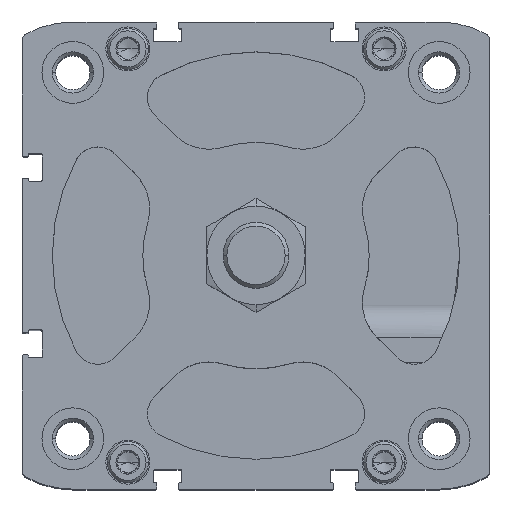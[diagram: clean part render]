
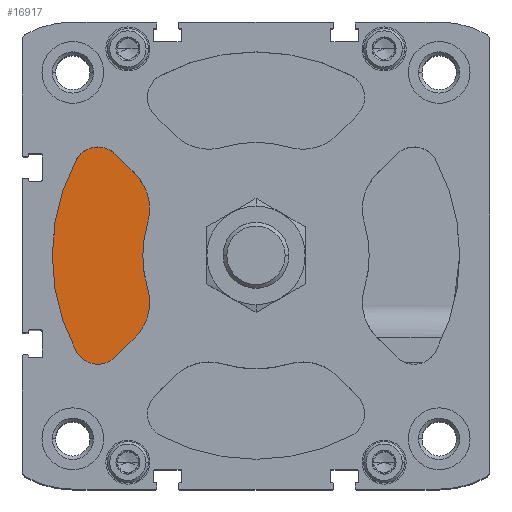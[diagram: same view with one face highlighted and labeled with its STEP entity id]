
A CAD part, top view. The second image highlights one B-rep face of the part: STEP entity #16917.
In plain terms, the highlighted planar face has unit normal (0, 0, 1).
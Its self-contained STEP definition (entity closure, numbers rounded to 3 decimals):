
#291 = VERTEX_POINT ( 'NONE', #6179 ) ;
#366 = EDGE_CURVE ( 'NONE', #9530, #16301, #12878, .T. ) ;
#747 = ORIENTED_EDGE ( 'NONE', *, *, #9583, .F. ) ;
#1716 = DIRECTION ( 'NONE',  ( 0., 1., 0. ) ) ;
#1896 = CARTESIAN_POINT ( 'NONE',  ( -29.356, 19.81, -18.8 ) ) ;
#2048 = CARTESIAN_POINT ( 'NONE',  ( -38.424, 20.393, -18.8 ) ) ;
#2157 = EDGE_LOOP ( 'NONE', ( #6025, #12509, #22018, #21944, #747, #20966, #22286, #20193, #13142 ) ) ;
#2169 = DIRECTION ( 'NONE',  ( 0., 0., 1. ) ) ;
#2543 = VERTEX_POINT ( 'NONE', #22245 ) ;
#2637 = FACE_OUTER_BOUND ( 'NONE', #2157, .T. ) ;
#2733 = AXIS2_PLACEMENT_3D ( 'NONE', #2048, #17920, #11078 ) ;
#2738 = DIRECTION ( 'NONE',  ( 0., 1., 0. ) ) ;
#3538 = DIRECTION ( 'NONE',  ( 0.707, 0.707, 0. ) ) ;
#3808 = CIRCLE ( 'NONE', #18058, 27.5 ) ;
#4569 = EDGE_CURVE ( 'NONE', #16301, #8339, #19295, .T. ) ;
#5253 = CARTESIAN_POINT ( 'NONE',  ( -34.181, -24.635, -18.8 ) ) ;
#5354 = LINE ( 'NONE', #6956, #22594 ) ;
#5484 = DIRECTION ( 'NONE',  ( 0., 0., 1. ) ) ;
#5612 = CARTESIAN_POINT ( 'NONE',  ( -26.345, 7.885, -18.8 ) ) ;
#5614 = DIRECTION ( 'NONE',  ( 0., 0., 1. ) ) ;
#6025 = ORIENTED_EDGE ( 'NONE', *, *, #366, .T. ) ;
#6179 = CARTESIAN_POINT ( 'NONE',  ( -34.181, 24.635, -18.8 ) ) ;
#6421 = DIRECTION ( 'NONE',  ( 0., 1., 0. ) ) ;
#6956 = CARTESIAN_POINT ( 'NONE',  ( -29.356, 19.81, -18.8 ) ) ;
#6971 = LINE ( 'NONE', #5253, #11114 ) ;
#8022 = CARTESIAN_POINT ( 'NONE',  ( 0., 0., -18.8 ) ) ;
#8339 = VERTEX_POINT ( 'NONE', #16145 ) ;
#9036 = AXIS2_PLACEMENT_3D ( 'NONE', #13610, #20589, #6421 ) ;
#9272 = DIRECTION ( 'NONE',  ( 0., 1., 0. ) ) ;
#9530 = VERTEX_POINT ( 'NONE', #19214 ) ;
#9583 = EDGE_CURVE ( 'NONE', #20508, #2543, #3808, .T. ) ;
#9713 = DIRECTION ( 'NONE',  ( 0., 0., 1. ) ) ;
#10066 = EDGE_CURVE ( 'NONE', #21248, #9530, #21356, .T. ) ;
#11062 = AXIS2_PLACEMENT_3D ( 'NONE', #18624, #9713, #2738 ) ;
#11078 = DIRECTION ( 'NONE',  ( 0., 1., 0. ) ) ;
#11101 = CARTESIAN_POINT ( 'NONE',  ( 0., 0., -18.8 ) ) ;
#11114 = VECTOR ( 'NONE', #3538, 1000. ) ;
#11444 = CARTESIAN_POINT ( 'NONE',  ( -29.356, -19.81, -18.8 ) ) ;
#11803 = VERTEX_POINT ( 'NONE', #11444 ) ;
#11946 = DIRECTION ( 'NONE',  ( 0., 0., 1. ) ) ;
#12049 = CARTESIAN_POINT ( 'NONE',  ( -38.424, 20.393, -18.8 ) ) ;
#12225 = AXIS2_PLACEMENT_3D ( 'NONE', #12049, #11946, #18810 ) ;
#12509 = ORIENTED_EDGE ( 'NONE', *, *, #4569, .T. ) ;
#12878 = CIRCLE ( 'NONE', #11062, 49.5 ) ;
#13142 = ORIENTED_EDGE ( 'NONE', *, *, #10066, .T. ) ;
#13223 = EDGE_CURVE ( 'NONE', #11803, #2543, #17054, .T. ) ;
#13610 = CARTESIAN_POINT ( 'NONE',  ( -37.842, -11.325, -18.8 ) ) ;
#14418 = CARTESIAN_POINT ( 'NONE',  ( -37.842, 11.325, -18.8 ) ) ;
#14648 = EDGE_CURVE ( 'NONE', #14791, #291, #5354, .T. ) ;
#14766 = PLANE ( 'NONE',  #18721 ) ;
#14791 = VERTEX_POINT ( 'NONE', #1896 ) ;
#14984 = DIRECTION ( 'NONE',  ( 0., 0., 1. ) ) ;
#15830 = CARTESIAN_POINT ( 'NONE',  ( -43.724, -23.205, -18.8 ) ) ;
#16145 = CARTESIAN_POINT ( 'NONE',  ( -34.181, -24.635, -18.8 ) ) ;
#16234 = CIRCLE ( 'NONE', #12225, 6. ) ;
#16301 = VERTEX_POINT ( 'NONE', #15830 ) ;
#16463 = DIRECTION ( 'NONE',  ( 1., 0., 0. ) ) ;
#16917 = ADVANCED_FACE ( 'NONE', ( #2637 ), #14766, .T. ) ;
#17054 = CIRCLE ( 'NONE', #9036, 12. ) ;
#17563 = DIRECTION ( 'NONE',  ( -0.707, 0.707, 0. ) ) ;
#17718 = CARTESIAN_POINT ( 'NONE',  ( -38.424, -20.393, -18.8 ) ) ;
#17920 = DIRECTION ( 'NONE',  ( 0., 0., 1. ) ) ;
#18058 = AXIS2_PLACEMENT_3D ( 'NONE', #11101, #5614, #9272 ) ;
#18083 = CIRCLE ( 'NONE', #21008, 12. ) ;
#18624 = CARTESIAN_POINT ( 'NONE',  ( 0., 0., -18.8 ) ) ;
#18721 = AXIS2_PLACEMENT_3D ( 'NONE', #8022, #14984, #16463 ) ;
#18810 = DIRECTION ( 'NONE',  ( 0., 1., 0. ) ) ;
#19214 = CARTESIAN_POINT ( 'NONE',  ( -43.724, 23.205, -18.8 ) ) ;
#19295 = CIRCLE ( 'NONE', #22232, 6. ) ;
#19435 = DIRECTION ( 'NONE',  ( 0., 1., 0. ) ) ;
#20193 = ORIENTED_EDGE ( 'NONE', *, *, #21224, .T. ) ;
#20508 = VERTEX_POINT ( 'NONE', #5612 ) ;
#20589 = DIRECTION ( 'NONE',  ( 0., 0., 1. ) ) ;
#20966 = ORIENTED_EDGE ( 'NONE', *, *, #21934, .T. ) ;
#21008 = AXIS2_PLACEMENT_3D ( 'NONE', #14418, #2169, #19435 ) ;
#21061 = EDGE_CURVE ( 'NONE', #8339, #11803, #6971, .T. ) ;
#21182 = CARTESIAN_POINT ( 'NONE',  ( -38.424, 26.393, -18.8 ) ) ;
#21224 = EDGE_CURVE ( 'NONE', #291, #21248, #16234, .T. ) ;
#21248 = VERTEX_POINT ( 'NONE', #21182 ) ;
#21356 = CIRCLE ( 'NONE', #2733, 6. ) ;
#21934 = EDGE_CURVE ( 'NONE', #20508, #14791, #18083, .T. ) ;
#21944 = ORIENTED_EDGE ( 'NONE', *, *, #13223, .T. ) ;
#22018 = ORIENTED_EDGE ( 'NONE', *, *, #21061, .T. ) ;
#22232 = AXIS2_PLACEMENT_3D ( 'NONE', #17718, #5484, #1716 ) ;
#22245 = CARTESIAN_POINT ( 'NONE',  ( -26.345, -7.885, -18.8 ) ) ;
#22286 = ORIENTED_EDGE ( 'NONE', *, *, #14648, .T. ) ;
#22594 = VECTOR ( 'NONE', #17563, 1000. ) ;
